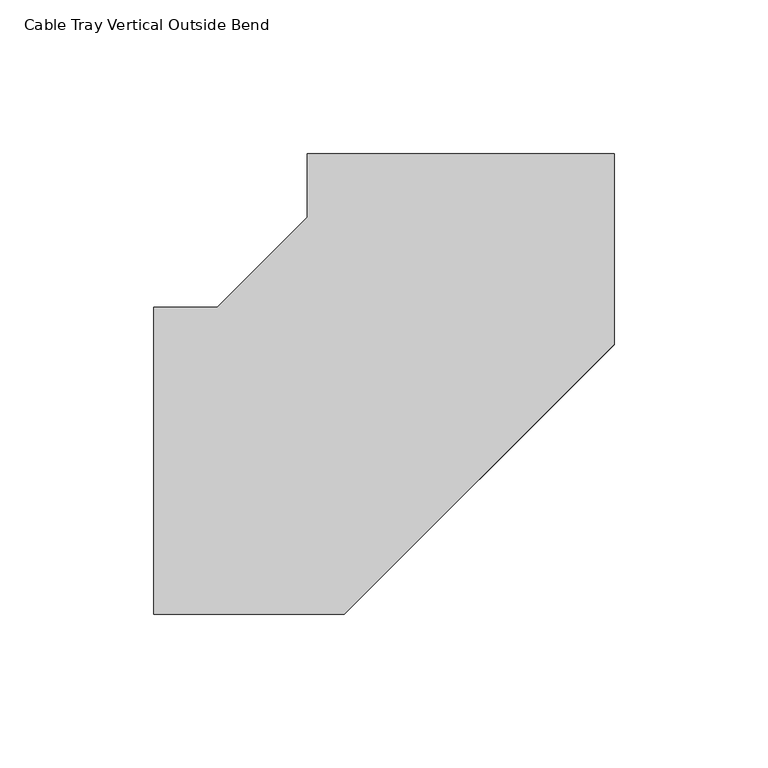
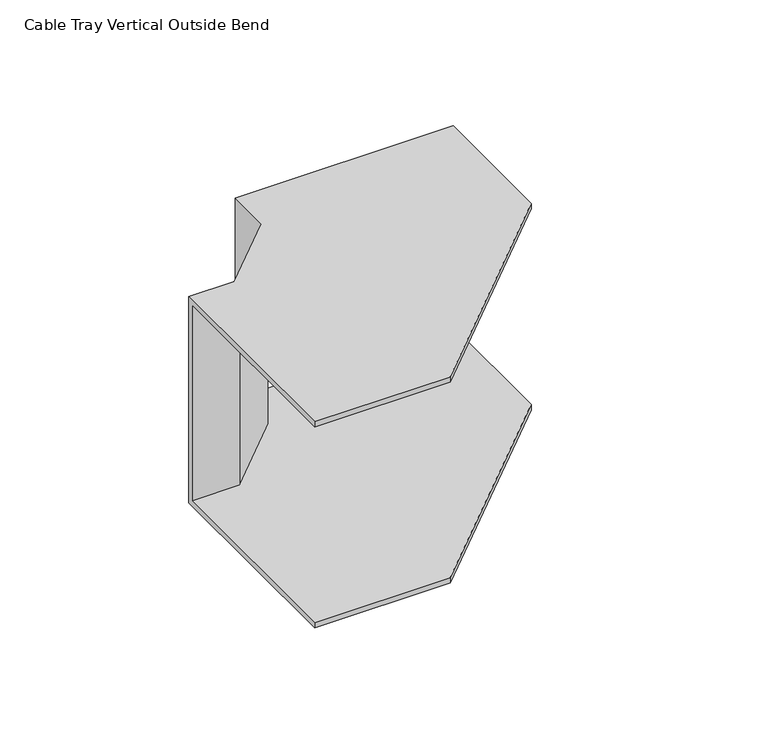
"""IFC4 building model written with IfcOpenShell, lengths in millimetres: cable carrier fitting geometry, Cable Tray Vertical Outside Bend : ELEC_ELV_TKG_N2402."""

from ifc_helpers import new_model, si_unit, origin, place, context, project, spatial, faceted_brep, source, transform, mapped, element, save


def cable_tray_vertical_outside_bend_37910013(model_context):
    return source(origin(), model_context, "Body", "Brep", [
        faceted_brep([(-99.9982794, -50.0, 50.0), (-99.9982794, 50.0, 50.0), (-99.9982794, 50.0, -50.0), (-99.9982794, -50.0, -50.0), (-99.9982794, -50.0, -47.46), (-99.9982794, 47.46, -47.46), (-99.9982794, 47.46, 47.46), (-99.9982794, -50.0, 47.46), (50.0017206, 99.9974191, 50.0), (50.0017206, 99.9974191, 47.46), (-47.4582794, 99.999096, 47.46), (-47.4582794, 99.999096, -47.46), (50.0017206, 99.9974191, -47.46), (50.0017206, 99.9974191, -50.0), (-49.9982794, 99.9991397, -50.0), (-49.9982794, 99.9991397, 50.0), (-37.867001, -50.0, 50.0), (50.0006515, 37.8661407, 50.0), (-49.9986358, 79.2887136, 50.0), (-79.2878533, 50.0, 50.0), (-79.2878533, 50.0, -50.0), (-49.9986358, 79.2887136, -50.0), (50.0006515, 37.8661407, -50.0), (-37.867001, -50.0, -50.0), (-37.867001, -50.0, -47.46), (50.0006515, 37.8661407, -47.46), (-47.4586539, 78.2365802, -47.46), (-78.2357636, 47.46, -47.46), (-78.2357636, 47.46, 47.46), (-47.4586539, 78.2365802, 47.46), (50.0006515, 37.8661407, 47.46), (-37.867001, -50.0, 47.46)], [[[0, 1, 2, 3, 4, 5, 6, 7]], [[8, 9, 10, 11, 12, 13, 14, 15]], [[1, 0, 16, 17, 8, 15, 18, 19]], [[2, 1, 19, 20]], [[3, 2, 20, 21, 14, 13, 22, 23]], [[4, 3, 23, 24]], [[5, 4, 24, 25, 12, 11, 26, 27]], [[6, 5, 27, 28]], [[7, 6, 28, 29, 10, 9, 30, 31]], [[0, 7, 31, 16]], [[20, 19, 18, 21]], [[24, 23, 22, 25]], [[28, 27, 26, 29]], [[16, 31, 30, 17]], [[21, 18, 15, 14]], [[25, 22, 13, 12]], [[29, 26, 11, 10]], [[17, 30, 9, 8]]]),
    ])


if __name__ == "__main__":
    model = new_model("IFC4")
    model_context = context("Model", 3, world=origin())
    ifc_project = project(units=[si_unit("LENGTHUNIT", "METRE", prefix="MILLI")], contexts=[model_context])
    site = spatial("IfcSite", under=ifc_project)
    building = spatial("IfcBuilding", under=site)
    placement = place(None, origin())
    cable_tray_vertical_outside_bend_shape = cable_tray_vertical_outside_bend_37910013(model_context)
    element("IfcCableCarrierFitting", 1, ObjectType="Cable Tray Vertical Outside Bend : ELEC_ELV_TKG_N2402", at=placement, inside=building, context=model_context, shape_type="MappedRepresentation", body=[
        mapped(cable_tray_vertical_outside_bend_shape, transform((0.0, 0.0, 0.0), x_axis=(1.0, 0.0, 0.0), y_axis=(0.0, 1.0, 0.0), z_axis=(0.0, 0.0, 1.0))),
    ])
    save(model, "model.ifc")
